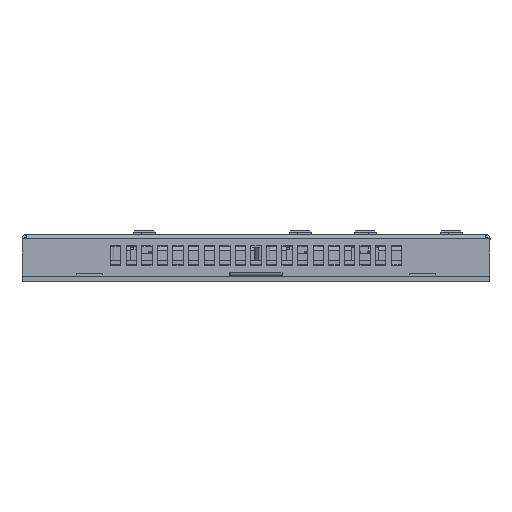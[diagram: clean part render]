
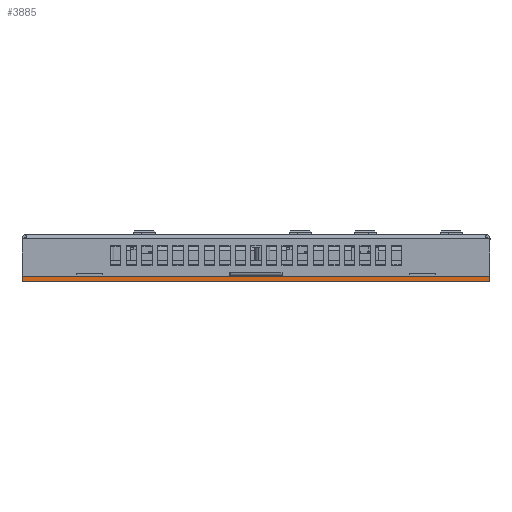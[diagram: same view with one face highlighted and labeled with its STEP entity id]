
A CAD part, front view. The second image highlights one B-rep face of the part: STEP entity #3885.
In plain terms, the highlighted planar face has unit normal (0, -1, 0).
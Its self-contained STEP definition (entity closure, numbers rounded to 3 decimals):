
#1250 = VERTEX_POINT ( 'NONE', #17499 ) ;
#1258 = EDGE_CURVE ( 'NONE', #1318, #1250, #17474, .T. ) ;
#1318 = VERTEX_POINT ( 'NONE', #17576 ) ;
#1377 = EDGE_CURVE ( 'NONE', #8501, #1318, #17677, .T. ) ;
#1752 = EDGE_CURVE ( 'NONE', #1250, #8529, #18310, .T. ) ;
#3885 = ADVANCED_FACE ( 'NONE', ( #33397 ), #33460, .T. ) ;
#3887 = EDGE_LOOP ( 'NONE', ( #3892, #3894, #3898, #3977 ) ) ;
#3892 = ORIENTED_EDGE ( 'NONE', *, *, #1377, .T. ) ;
#3894 = ORIENTED_EDGE ( 'NONE', *, *, #1258, .T. ) ;
#3898 = ORIENTED_EDGE ( 'NONE', *, *, #1752, .T. ) ;
#3977 = ORIENTED_EDGE ( 'NONE', *, *, #8507, .T. ) ;
#8501 = VERTEX_POINT ( 'NONE', #51253 ) ;
#8507 = EDGE_CURVE ( 'NONE', #8529, #8501, #51233, .T. ) ;
#8529 = VERTEX_POINT ( 'NONE', #51302 ) ;
#17471 = DIRECTION ( 'NONE',  ( 1., 0., 0. ) ) ;
#17472 = VECTOR ( 'NONE', #17471, 1000. ) ;
#17473 = CARTESIAN_POINT ( 'NONE',  ( -90., -15., 0. ) ) ;
#17474 = LINE ( 'NONE', #17473, #17472 ) ;
#17499 = CARTESIAN_POINT ( 'NONE',  ( 90., -15., 0. ) ) ;
#17576 = CARTESIAN_POINT ( 'NONE',  ( -90., -15., 0. ) ) ;
#17674 = DIRECTION ( 'NONE',  ( 0., 0., -1. ) ) ;
#17675 = VECTOR ( 'NONE', #17674, 1000. ) ;
#17676 = CARTESIAN_POINT ( 'NONE',  ( -90., -15., 2. ) ) ;
#17677 = LINE ( 'NONE', #17676, #17675 ) ;
#18302 = DIRECTION ( 'NONE',  ( 0., 0., 1. ) ) ;
#18303 = VECTOR ( 'NONE', #18302, 1000. ) ;
#18304 = CARTESIAN_POINT ( 'NONE',  ( 90., -15., 0. ) ) ;
#18310 = LINE ( 'NONE', #18304, #18303 ) ;
#33397 = FACE_OUTER_BOUND ( 'NONE', #3887, .T. ) ;
#33455 = DIRECTION ( 'NONE',  ( 0., 0., -1. ) ) ;
#33456 = DIRECTION ( 'NONE',  ( 0., -1., 0. ) ) ;
#33457 = CARTESIAN_POINT ( 'NONE',  ( -90., -15., 0. ) ) ;
#33458 = AXIS2_PLACEMENT_3D ( 'NONE', #33457, #33456, #33455 ) ;
#33460 = PLANE ( 'NONE',  #33458 ) ;
#51230 = DIRECTION ( 'NONE',  ( -1., 0., 0. ) ) ;
#51231 = VECTOR ( 'NONE', #51230, 1000. ) ;
#51232 = CARTESIAN_POINT ( 'NONE',  ( 90., -15., 2. ) ) ;
#51233 = LINE ( 'NONE', #51232, #51231 ) ;
#51253 = CARTESIAN_POINT ( 'NONE',  ( -90., -15., 2. ) ) ;
#51302 = CARTESIAN_POINT ( 'NONE',  ( 90., -15., 2. ) ) ;
